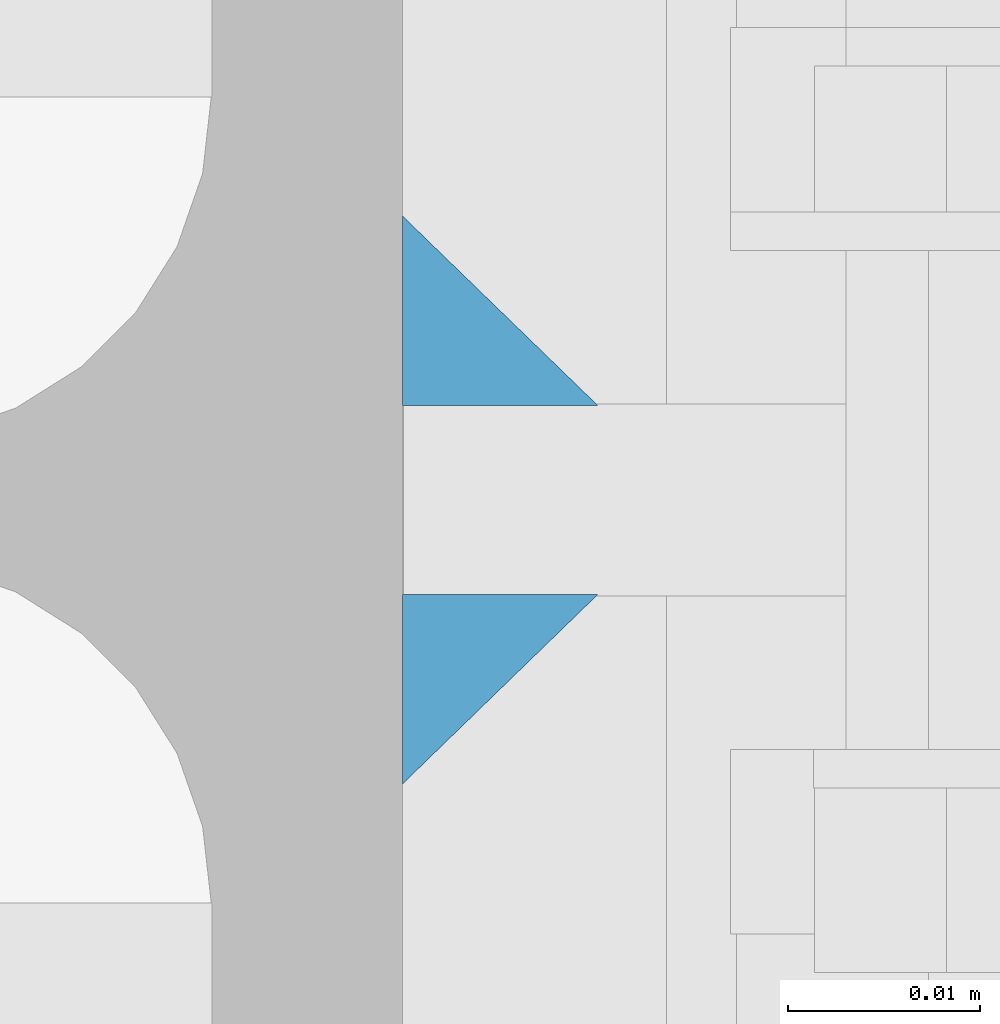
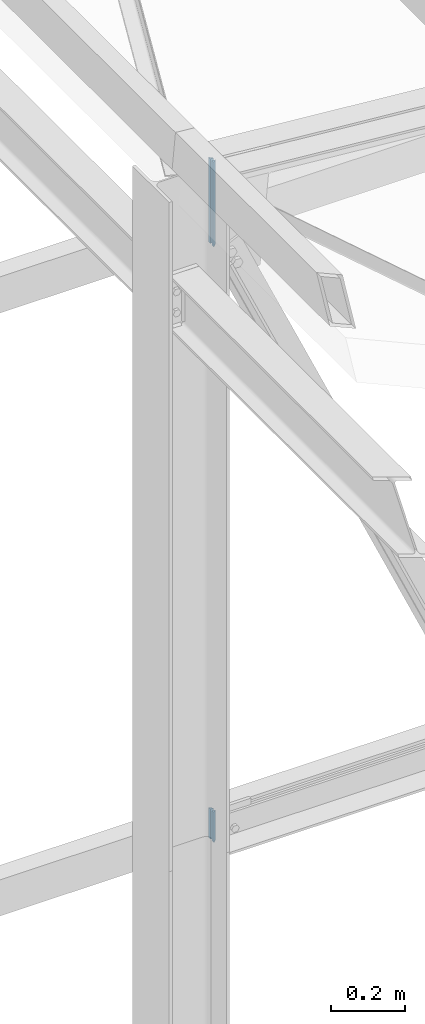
# One storey, part 38 of 251: 4 fasteners.
"""IFC4 building model written with IfcOpenShell, lengths in metres."""

from ifc_helpers import new_model, si_unit, frame, origin_with_axes, place, context, project, spatial, polyline, outline, extrude, type_object, element, save


model = new_model("IFC4")

# Units and contexts
model_context = context("Model", 3, precision=1e-05, world=origin_with_axes())
ifc_project = project(units=[si_unit("LENGTHUNIT", "METRE"), si_unit("AREAUNIT", "SQUARE_METRE"), si_unit("VOLUMEUNIT", "CUBIC_METRE"), si_unit("MASSUNIT", "GRAM", prefix="KILO"), si_unit("TIMEUNIT", "SECOND"), si_unit("PLANEANGLEUNIT", "RADIAN"), si_unit("SOLIDANGLEUNIT", "STERADIAN"), si_unit("THERMODYNAMICTEMPERATUREUNIT", "DEGREE_CELSIUS")], contexts=[model_context])

# Site, building, storey
placement_1 = place(None, origin_with_axes())
site = spatial("IfcSite", under=ifc_project, at=placement_1, Name="Italia", CompositionType="ELEMENT")
building = spatial("IfcBuilding", under=site, at=placement_1, Name="Deposito", CompositionType="ELEMENT")
storey = spatial("IfcBuildingStorey", under=building, at=placement_1, Name="Storey 0", CompositionType="ELEMENT", Elevation=0.0)

# Fasteners
fastener_type_1 = type_object("IfcFastenerType", Name="Reticolare 5", PredefinedType="WELD")
placement_2 = place(placement_1, origin_with_axes())
fastener_1_placement = place(placement_2, origin_with_axes())
element("IfcFastener", 1, at=fastener_1_placement, inside=storey, type_object=fastener_type_1, Name="Reticolare 5", context=model_context, shape_type="SweptSolid", body=[
    extrude(outline(polyline([(0.0, 0.0), (0.00986862, 0.0101733), (0.00986862, 0.0), (0.0, 0.0)])), frame((6.14495, 14.9852, 5.07805), z_axis=(0.0, 0.0, -1.0), x_axis=(0.0, 1.0, 0.0)), (0.0, 0.0, 1.0), 0.1001),
])
fastener_type_2 = type_object("IfcFastenerType", Name="Reticolare 5", PredefinedType="WELD")
fastener_2_placement = place(placement_2, origin_with_axes())
element("IfcFastener", 2, at=fastener_2_placement, inside=storey, type_object=fastener_type_2, Name="Reticolare 5", context=model_context, shape_type="SweptSolid", body=[
    extrude(outline(polyline([(0.0, 0.0), (-0.00986862, -0.0101733), (-0.00986862, 0.0), (0.0, 0.0)])), frame((6.14495, 15.0148, 4.97795), z_axis=(0.0, 0.0, 1.0), x_axis=(0.0, 1.0, 0.0)), (0.0, 0.0, 1.0), 0.1001),
])
fastener_type_3 = type_object("IfcFastenerType", Name="Reticolare 5", PredefinedType="WELD")
fastener_3_placement = place(placement_2, origin_with_axes())
element("IfcFastener", 3, at=fastener_3_placement, inside=storey, type_object=fastener_type_3, Name="Reticolare 5", context=model_context, shape_type="SweptSolid", body=[
    extrude(outline(polyline([(0.0, 0.0), (0.00986862, 0.0101733), (0.00986862, 0.0), (0.0, 0.0)])), frame((6.14495, 14.9852, 7.23455), z_axis=(0.0, 0.0, -1.0), x_axis=(0.0, 1.0, 0.0)), (0.0, 0.0, 1.0), 0.2803),
])
fastener_type_4 = type_object("IfcFastenerType", Name="Reticolare 5", PredefinedType="WELD")
fastener_4_placement = place(placement_2, origin_with_axes())
element("IfcFastener", 4, at=fastener_4_placement, inside=storey, type_object=fastener_type_4, Name="Reticolare 5", context=model_context, shape_type="SweptSolid", body=[
    extrude(outline(polyline([(0.0, 0.0), (-0.00986862, -0.0101733), (-0.00986862, 0.0), (0.0, 0.0)])), frame((6.14495, 15.0148, 6.95425), z_axis=(0.0, 0.0, 1.0), x_axis=(0.0, 1.0, 0.0)), (0.0, 0.0, 1.0), 0.2803),
])

save(model, "model.ifc")
